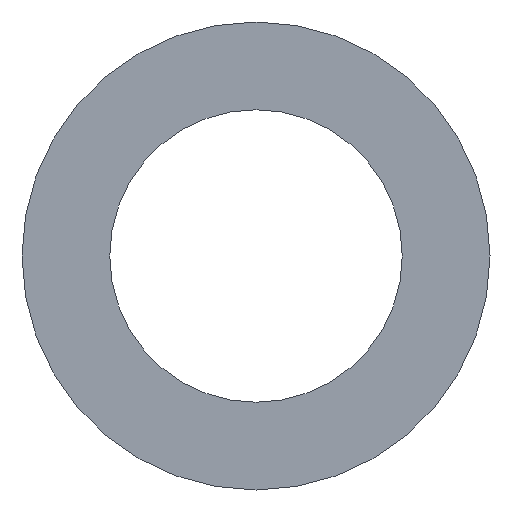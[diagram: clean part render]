
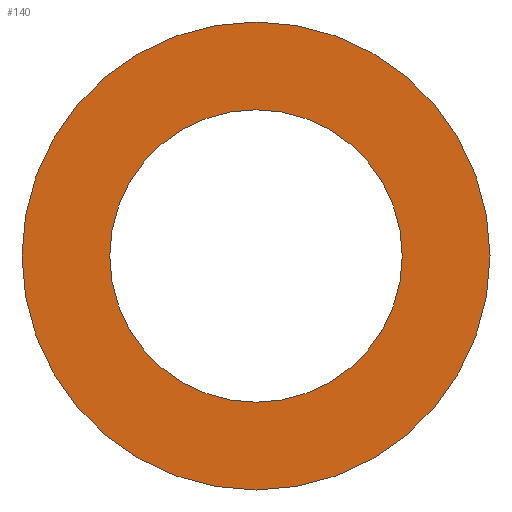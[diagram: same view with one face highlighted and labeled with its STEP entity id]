
A CAD part, left-side view. The second image highlights one B-rep face of the part: STEP entity #140.
In plain terms, the highlighted planar face has unit normal (-1, 0, 0).
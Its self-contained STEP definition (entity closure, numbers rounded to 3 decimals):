
#31 = CYLINDRICAL_SURFACE('',#32,24.);
#32 = AXIS2_PLACEMENT_3D('',#33,#34,#35);
#33 = CARTESIAN_POINT('',(23.,0.,0.));
#34 = DIRECTION('',(1.,0.,0.));
#35 = DIRECTION('',(0.,0.,-1.));
#56 = VERTEX_POINT('',#57);
#57 = CARTESIAN_POINT('',(23.,0.,-24.));
#78 = EDGE_CURVE('',#56,#56,#79,.T.);
#79 = SURFACE_CURVE('',#80,(#85,#92),.PCURVE_S1.);
#80 = CIRCLE('',#81,24.);
#81 = AXIS2_PLACEMENT_3D('',#82,#83,#84);
#82 = CARTESIAN_POINT('',(23.,0.,0.));
#83 = DIRECTION('',(1.,-0.,0.));
#84 = DIRECTION('',(0.,0.,-1.));
#85 = PCURVE('',#31,#86);
#86 = DEFINITIONAL_REPRESENTATION('',(#87),#91);
#87 = LINE('',#88,#89);
#88 = CARTESIAN_POINT('',(0.,0.));
#89 = VECTOR('',#90,1.);
#90 = DIRECTION('',(1.,0.));
#91 = ( GEOMETRIC_REPRESENTATION_CONTEXT(2) 
PARAMETRIC_REPRESENTATION_CONTEXT() REPRESENTATION_CONTEXT('2D SPACE',''
  ) );
#92 = PCURVE('',#93,#98);
#93 = PLANE('',#94);
#94 = AXIS2_PLACEMENT_3D('',#95,#96,#97);
#95 = CARTESIAN_POINT('',(23.,0.,0.));
#96 = DIRECTION('',(1.,0.,0.));
#97 = DIRECTION('',(0.,0.,-1.));
#98 = DEFINITIONAL_REPRESENTATION('',(#99),#103);
#99 = CIRCLE('',#100,24.);
#100 = AXIS2_PLACEMENT_2D('',#101,#102);
#101 = CARTESIAN_POINT('',(0.,0.));
#102 = DIRECTION('',(1.,0.));
#103 = ( GEOMETRIC_REPRESENTATION_CONTEXT(2) 
PARAMETRIC_REPRESENTATION_CONTEXT() REPRESENTATION_CONTEXT('2D SPACE',''
  ) );
#129 = CYLINDRICAL_SURFACE('',#130,15.);
#130 = AXIS2_PLACEMENT_3D('',#131,#132,#133);
#131 = CARTESIAN_POINT('',(22.,0.,0.));
#132 = DIRECTION('',(1.,0.,0.));
#133 = DIRECTION('',(0.,0.,-1.));
#140 = ADVANCED_FACE('',(#141,#144),#93,.F.);
#141 = FACE_BOUND('',#142,.F.);
#142 = EDGE_LOOP('',(#143));
#143 = ORIENTED_EDGE('',*,*,#78,.T.);
#144 = FACE_BOUND('',#145,.F.);
#145 = EDGE_LOOP('',(#146));
#146 = ORIENTED_EDGE('',*,*,#147,.F.);
#147 = EDGE_CURVE('',#148,#148,#150,.T.);
#148 = VERTEX_POINT('',#149);
#149 = CARTESIAN_POINT('',(23.,0.,-15.));
#150 = SURFACE_CURVE('',#151,(#156,#163),.PCURVE_S1.);
#151 = CIRCLE('',#152,15.);
#152 = AXIS2_PLACEMENT_3D('',#153,#154,#155);
#153 = CARTESIAN_POINT('',(23.,0.,0.));
#154 = DIRECTION('',(1.,0.,0.));
#155 = DIRECTION('',(0.,0.,-1.));
#156 = PCURVE('',#93,#157);
#157 = DEFINITIONAL_REPRESENTATION('',(#158),#162);
#158 = CIRCLE('',#159,15.);
#159 = AXIS2_PLACEMENT_2D('',#160,#161);
#160 = CARTESIAN_POINT('',(0.,0.));
#161 = DIRECTION('',(1.,0.));
#162 = ( GEOMETRIC_REPRESENTATION_CONTEXT(2) 
PARAMETRIC_REPRESENTATION_CONTEXT() REPRESENTATION_CONTEXT('2D SPACE',''
  ) );
#163 = PCURVE('',#129,#164);
#164 = DEFINITIONAL_REPRESENTATION('',(#165),#169);
#165 = LINE('',#166,#167);
#166 = CARTESIAN_POINT('',(0.,1.));
#167 = VECTOR('',#168,1.);
#168 = DIRECTION('',(1.,0.));
#169 = ( GEOMETRIC_REPRESENTATION_CONTEXT(2) 
PARAMETRIC_REPRESENTATION_CONTEXT() REPRESENTATION_CONTEXT('2D SPACE',''
  ) );
